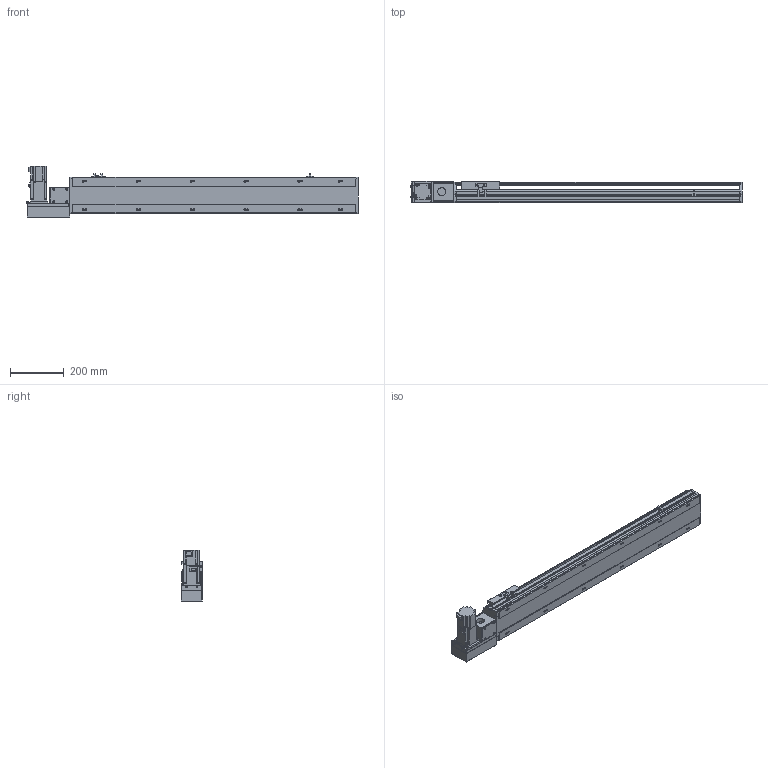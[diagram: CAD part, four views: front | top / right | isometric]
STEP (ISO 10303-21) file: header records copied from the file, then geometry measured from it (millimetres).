
FILE_DESCRIPTION(/* description */ ('STEP AP214'),/* implementation_level */ '2;1');
FILE_NAME(/* name */ 'PBS140-P40-S800-L-T40-C1-N(0)',/* time_stamp */ '2022-06-06T03:01:16+02:00',/* author */ ('License CC BY-ND 4.0'),/* organization */ ('CADENAS'),/* preprocessor_version */ 'ST-DEVELOPER v18.102',/* originating_system */ 'PARTsolutions',/* authorisation */ ' ');
FILE_SCHEMA (('AUTOMOTIVE_DESIGN {1 0 10303 214 3 1 1}'));
Length unit declared in the file: millimetre
Products named in the file (7): PBS140-P40-S800-L-T40-C1-N(0); PBS140_sensor; PBS140_plant; PBS140_sliser; T40-p1; PBS140T-L_motors; PBS140-S800()_body
Assembly tree (8 placements, depth 2):
  PBS140-P40-S800-L-T40-C1-N(0)
    PBS140_sensor  x3
    PBS140_plant
    PBS140_sliser
    T40-p1
    PBS140T-L_motors
    PBS140-S800()_body
Bounding box: 1233 x 80.5 x 189.7 mm (x, y, z)
Volume: 5675038.8 mm3; surface area: 1000793.3 mm2
Topology: 8 solids, 8 shells, 1043 faces, 2756 edges, 1801 vertices
Faces by surface type: plane 680, cylinder 315, cone 38, sphere 8, torus 2
Full cylindrical faces by diameter (mm): 3.242 x4, 4 x2, 4.134 x4, 4.4 x8, 4.5 x2, 4.8 x4, 4.917 x20, 5.5 x7, 6 x2, 7 x14, 7.5 x8, 8 x12, 8.5 x4, 10.5 x12, 14 x1, 30 x2, 50 x2
Entity records: 29729 total; most frequent: CARTESIAN_POINT 5441, DIRECTION 5057, ORIENTED_EDGE 4792, EDGE_CURVE 2396, AXIS2_PLACEMENT_3D 1747, VERTEX_POINT 1653, LINE 1563, VECTOR 1563
